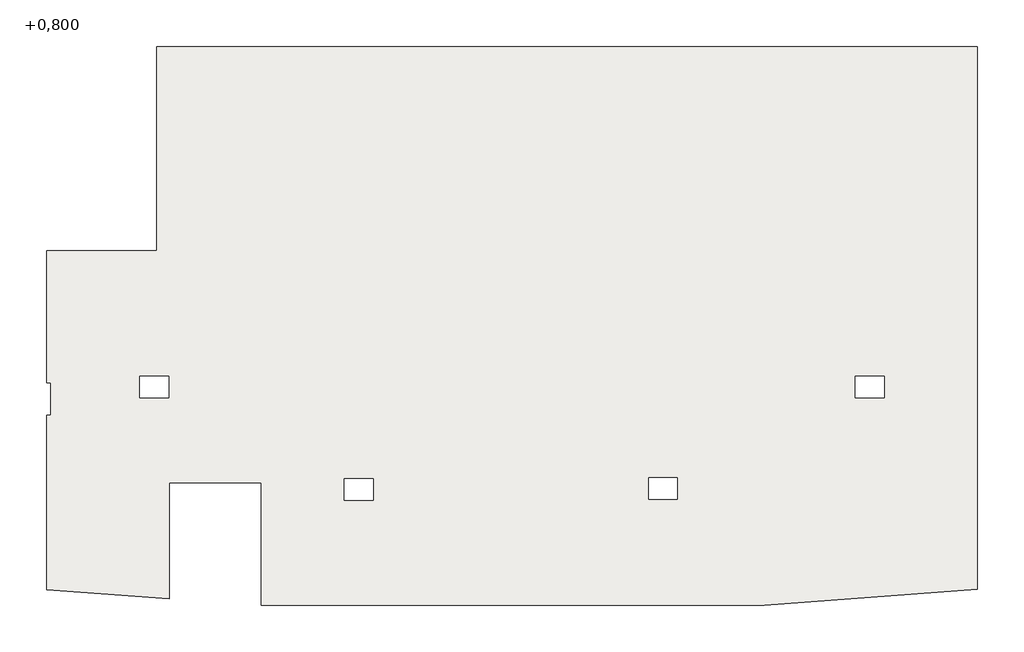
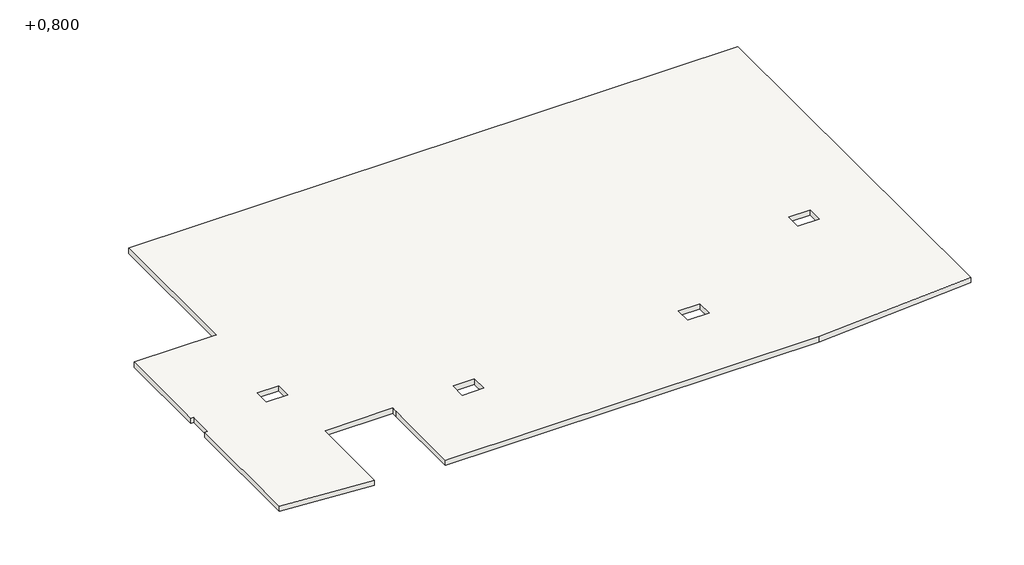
# One storey: 1 slab.
"""IFC4 building model written with IfcOpenShell, lengths in millimetres."""

from ifc_helpers import new_model, si_unit, origin, place, context, project, spatial, faceted_brep, element, save

model = new_model("IFC4")

# Units and contexts
model_context = context("Model", 3, world=origin())
ifc_project = project(units=[si_unit("LENGTHUNIT", "METRE", prefix="MILLI")], contexts=[model_context])

# Site, building, storey
site = spatial("IfcSite", under=ifc_project)
building = spatial("IfcBuilding", under=site)
storey = spatial("IfcBuildingStorey", under=building, Name="+0,800", Elevation=800.0)

# Slab
placement = place(None, origin())
element("IfcSlab", 1, ObjectType="Тип 2", at=placement, inside=storey, context=model_context, shape_type="Brep", body=[
    faceted_brep([(5604.6696214, 19373.8709302, 740.0), (4605.0630762, 19447.3933894, 740.0), (4605.0630762, 20867.5, 740.0), (4638.0000003, 20867.5, 740.0), (4638.0000003, 21132.5, 740.0), (4605.0630762, 21132.5, 740.0), (4605.0630762, 22210.0, 740.0), (5505.0, 22210.0, 740.0), (5505.0, 23875.0, 740.0), (5565.0, 23875.0, 740.0), (12195.0, 23875.0, 740.0), (12195.0, 19448.8710074, 740.0), (10455.7572206, 19320.0001181, 740.0), (6354.6696214, 19320.0001181, 740.0), (6354.6696214, 20254.2232208, 740.0), (6355.0633878, 20254.2232208, 740.0), (6355.0633878, 20320.0001181, 740.0), (5604.6696214, 20320.0001181, 740.0), (9748.0630763, 20360.0, 740.0), (9513.0630763, 20360.0, 740.0), (9513.0630763, 20185.0, 740.0), (9748.0630763, 20185.0, 740.0), (11435.0630763, 21185.0, 740.0), (11200.0630763, 21185.0, 740.0), (11200.0630763, 21010.0, 740.0), (11435.0630763, 21010.0, 740.0), (7268.0630763, 20350.0, 740.0), (7033.0630763, 20350.0, 740.0), (7033.0630763, 20175.0, 740.0), (7268.0630763, 20175.0, 740.0), (5600.0630763, 21185.0, 740.0), (5365.0630763, 21185.0, 740.0), (5365.0630763, 21010.0, 740.0), (5600.0630763, 21010.0, 740.0), (4605.0630762, 19447.3933894, 800.0), (5604.6696214, 19373.8709302, 800.0), (5604.6696214, 20320.0001181, 800.0), (5605.0633878, 20320.0001181, 800.0), (6355.0633878, 20320.0001181, 800.0), (6355.0633878, 20254.2232208, 800.0), (6354.6696214, 20254.2232208, 800.0), (6354.6696214, 19320.0001181, 800.0), (10455.7572206, 19320.0001181, 800.0), (12195.0, 19448.8710074, 800.0), (12195.0, 23875.0, 800.0), (5505.0, 23875.0, 800.0), (5505.0, 22210.0, 800.0), (4605.0630762, 22210.0, 800.0), (4605.0630762, 21132.5, 800.0), (4638.0000003, 21132.5, 800.0), (4638.0000003, 20867.5, 800.0), (4605.0630762, 20867.5, 800.0), (9513.0630763, 20360.0, 800.0), (9748.0630763, 20360.0, 800.0), (9748.0630763, 20185.0, 800.0), (9513.0630763, 20185.0, 800.0), (11200.0630763, 21185.0, 800.0), (11435.0630763, 21185.0, 800.0), (11435.0630763, 21010.0, 800.0), (11200.0630763, 21010.0, 800.0), (7033.0630763, 20350.0, 800.0), (7268.0630763, 20350.0, 800.0), (7268.0630763, 20175.0, 800.0), (7033.0630763, 20175.0, 800.0), (5365.0630763, 21185.0, 800.0), (5600.0630763, 21185.0, 800.0), (5600.0630763, 21010.0, 800.0), (5365.0630763, 21010.0, 800.0)], [[[0, 1, 2, 3, 4, 5, 6, 7, 8, 9, 10, 11, 12, 13, 14, 15, 16, 17], [18, 19, 20, 21], [22, 23, 24, 25], [26, 27, 28, 29], [30, 31, 32, 33]], [[34, 35, 36, 37, 38, 39, 40, 41, 42, 43, 44, 45, 46, 47, 48, 49, 50, 51], [52, 53, 54, 55], [56, 57, 58, 59], [60, 61, 62, 63], [64, 65, 66, 67]], [[1, 0, 35, 34]], [[2, 1, 34, 51]], [[3, 2, 51, 50]], [[4, 3, 50, 49]], [[5, 4, 49, 48]], [[6, 5, 48, 47]], [[7, 6, 47, 46]], [[8, 7, 46, 45]], [[10, 9, 8, 45, 44]], [[11, 10, 44, 43]], [[12, 11, 43, 42]], [[13, 12, 42, 41]], [[13, 41, 40, 14]], [[36, 17, 16, 38, 37]], [[0, 17, 36, 35]], [[38, 16, 15, 39]], [[39, 15, 14, 40]], [[18, 53, 52, 19]], [[19, 52, 55, 20]], [[20, 55, 54, 21]], [[53, 18, 21, 54]], [[22, 57, 56, 23]], [[23, 56, 59, 24]], [[24, 59, 58, 25]], [[57, 22, 25, 58]], [[26, 61, 60, 27]], [[27, 60, 63, 28]], [[28, 63, 62, 29]], [[61, 26, 29, 62]], [[30, 65, 64, 31]], [[31, 64, 67, 32]], [[32, 67, 66, 33]], [[65, 30, 33, 66]]]),
])

save(model, "model.ifc")
